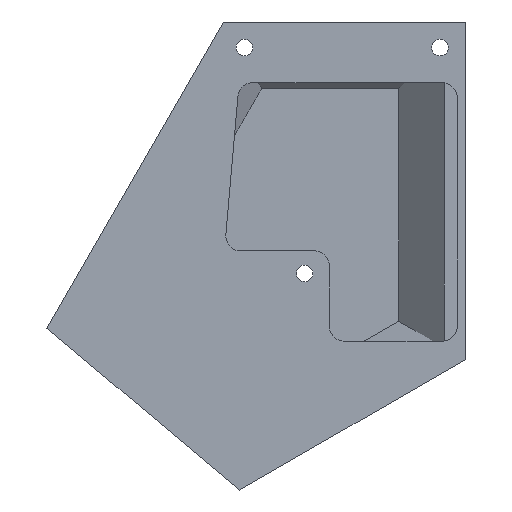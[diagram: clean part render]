
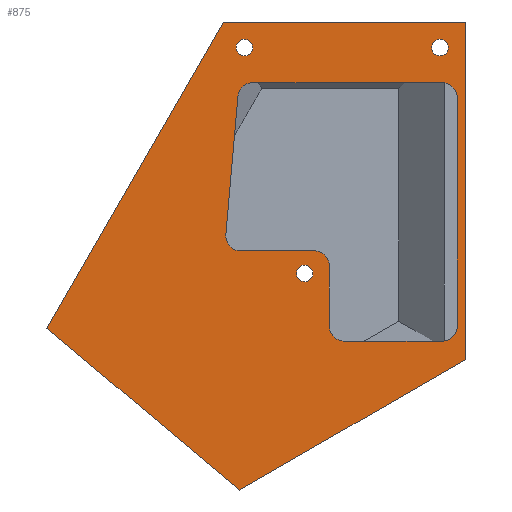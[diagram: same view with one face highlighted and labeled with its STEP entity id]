
A CAD part, front view. The second image highlights one B-rep face of the part: STEP entity #875.
In plain terms, the highlighted planar face has unit normal (0, -1, 0).
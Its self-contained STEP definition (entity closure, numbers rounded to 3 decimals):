
#2=DIRECTION('',(1.,0.,0.));
#3=VECTOR('',#2,32.165);
#4=CARTESIAN_POINT('',(-26.799,42.,33.414));
#5=LINE('',#4,#3);
#6=DIRECTION('',(0.,0.,-1.));
#7=VECTOR('',#6,44.87);
#8=CARTESIAN_POINT('',(5.366,42.,33.414));
#9=LINE('',#8,#7);
#10=DIRECTION('',(-0.866,0.,-0.5));
#11=VECTOR('',#10,34.641);
#12=CARTESIAN_POINT('',(5.366,42.,-11.455));
#13=LINE('',#12,#11);
#14=DIRECTION('',(-0.766,0.,0.643));
#15=VECTOR('',#14,33.478);
#16=CARTESIAN_POINT('',(-24.634,42.,-28.776));
#17=LINE('',#16,#15);
#18=DIRECTION('',(0.5,0.,0.866));
#19=VECTOR('',#18,46.962);
#20=CARTESIAN_POINT('',(-50.28,42.,-7.256));
#21=LINE('',#20,#19);
#22=CARTESIAN_POINT('',(2.,42.,30.));
#23=DIRECTION('',(0.,-1.,0.));
#24=DIRECTION('',(-1.,0.,0.));
#25=AXIS2_PLACEMENT_3D('',#22,#23,#24);
#27=CARTESIAN_POINT('',(2.,42.,30.));
#28=DIRECTION('',(0.,-1.,0.));
#29=DIRECTION('',(1.,0.,0.));
#30=AXIS2_PLACEMENT_3D('',#27,#28,#29);
#32=CARTESIAN_POINT('',(-24.,42.,30.));
#33=DIRECTION('',(0.,-1.,0.));
#34=DIRECTION('',(-1.,0.,0.));
#35=AXIS2_PLACEMENT_3D('',#32,#33,#34);
#37=CARTESIAN_POINT('',(-24.,42.,30.));
#38=DIRECTION('',(0.,-1.,0.));
#39=DIRECTION('',(1.,0.,0.));
#40=AXIS2_PLACEMENT_3D('',#37,#38,#39);
#42=CARTESIAN_POINT('',(-16.,42.,0.));
#43=DIRECTION('',(0.,-1.,0.));
#44=DIRECTION('',(-1.,0.,0.));
#45=AXIS2_PLACEMENT_3D('',#42,#43,#44);
#47=CARTESIAN_POINT('',(-16.,42.,0.));
#48=DIRECTION('',(0.,-1.,0.));
#49=DIRECTION('',(1.,0.,0.));
#50=AXIS2_PLACEMENT_3D('',#47,#48,#49);
#52=CARTESIAN_POINT('',(-14.7,42.,1.));
#53=DIRECTION('',(0.,-1.,0.));
#54=DIRECTION('',(1.,0.,0.));
#55=AXIS2_PLACEMENT_3D('',#52,#53,#54);
#57=DIRECTION('',(0.,0.,-1.));
#58=VECTOR('',#57,8.);
#59=CARTESIAN_POINT('',(-12.7,42.,1.));
#60=LINE('',#59,#58);
#61=DIRECTION('',(1.,0.,0.));
#62=VECTOR('',#61,13.);
#63=CARTESIAN_POINT('',(-10.7,42.,-9.));
#64=LINE('',#63,#62);
#65=DIRECTION('',(-1.,0.,0.));
#66=VECTOR('',#65,25.167);
#67=CARTESIAN_POINT('',(2.3,42.,25.357));
#68=LINE('',#67,#66);
#69=DIRECTION('',(-0.087,0.,-0.996));
#70=VECTOR('',#69,18.427);
#71=CARTESIAN_POINT('',(-24.86,42.,23.531));
#72=LINE('',#71,#70);
#73=DIRECTION('',(1.,0.,0.));
#74=VECTOR('',#73,9.773);
#75=CARTESIAN_POINT('',(-24.473,42.,3.));
#76=LINE('',#75,#74);
#429=CARTESIAN_POINT('',(-24.473,42.,5.));
#430=DIRECTION('',(0.,1.,0.));
#431=DIRECTION('',(0.,0.,-1.));
#432=AXIS2_PLACEMENT_3D('',#429,#430,#431);
#447=CARTESIAN_POINT('',(-22.867,42.,23.357));
#448=DIRECTION('',(0.,1.,0.));
#449=DIRECTION('',(-0.996,0.,0.087));
#450=AXIS2_PLACEMENT_3D('',#447,#448,#449);
#465=CARTESIAN_POINT('',(2.3,42.,23.357));
#466=DIRECTION('',(0.,1.,0.));
#467=DIRECTION('',(0.,0.,1.));
#468=AXIS2_PLACEMENT_3D('',#465,#466,#467);
#488=DIRECTION('',(0.,0.,-1.));
#489=VECTOR('',#488,30.357);
#490=CARTESIAN_POINT('',(4.3,42.,23.357));
#491=LINE('',#490,#489);
#500=CARTESIAN_POINT('',(2.3,42.,-7.));
#501=DIRECTION('',(0.,1.,0.));
#502=DIRECTION('',(1.,0.,0.));
#503=AXIS2_PLACEMENT_3D('',#500,#501,#502);
#513=CARTESIAN_POINT('',(-10.7,42.,-7.));
#514=DIRECTION('',(0.,1.,0.));
#515=DIRECTION('',(0.,0.,-1.));
#516=AXIS2_PLACEMENT_3D('',#513,#514,#515);
#648=CARTESIAN_POINT('',(5.366,42.,-11.455));
#649=CARTESIAN_POINT('',(-24.634,42.,-28.776));
#650=VERTEX_POINT('',#648);
#651=VERTEX_POINT('',#649);
#652=CARTESIAN_POINT('',(-50.28,42.,-7.256));
#653=CARTESIAN_POINT('',(-26.799,42.,33.414));
#654=VERTEX_POINT('',#652);
#655=VERTEX_POINT('',#653);
#676=CARTESIAN_POINT('',(5.366,42.,33.414));
#677=VERTEX_POINT('',#676);
#694=CARTESIAN_POINT('',(0.9,42.,30.));
#695=CARTESIAN_POINT('',(3.1,42.,30.));
#696=VERTEX_POINT('',#694);
#697=VERTEX_POINT('',#695);
#698=CARTESIAN_POINT('',(-25.1,42.,30.));
#699=CARTESIAN_POINT('',(-22.9,42.,30.));
#700=VERTEX_POINT('',#698);
#701=VERTEX_POINT('',#699);
#702=CARTESIAN_POINT('',(-17.1,42.,0.));
#703=CARTESIAN_POINT('',(-14.9,42.,0.));
#704=VERTEX_POINT('',#702);
#705=VERTEX_POINT('',#703);
#762=CARTESIAN_POINT('',(-10.7,42.,-9.));
#764=VERTEX_POINT('',#762);
#766=CARTESIAN_POINT('',(-12.7,42.,-7.));
#768=VERTEX_POINT('',#766);
#770=CARTESIAN_POINT('',(-24.473,42.,3.));
#772=VERTEX_POINT('',#770);
#774=CARTESIAN_POINT('',(-26.466,42.,5.174));
#776=VERTEX_POINT('',#774);
#778=CARTESIAN_POINT('',(-24.86,42.,23.531));
#780=VERTEX_POINT('',#778);
#782=CARTESIAN_POINT('',(-22.867,42.,25.357));
#784=VERTEX_POINT('',#782);
#792=CARTESIAN_POINT('',(2.3,42.,25.357));
#793=VERTEX_POINT('',#792);
#794=CARTESIAN_POINT('',(4.3,42.,23.357));
#795=VERTEX_POINT('',#794);
#796=CARTESIAN_POINT('',(2.3,42.,-9.));
#798=VERTEX_POINT('',#796);
#804=CARTESIAN_POINT('',(4.3,42.,-7.));
#805=VERTEX_POINT('',#804);
#806=CARTESIAN_POINT('',(-12.7,42.,1.));
#807=CARTESIAN_POINT('',(-14.7,42.,3.));
#808=VERTEX_POINT('',#806);
#809=VERTEX_POINT('',#807);
#814=CARTESIAN_POINT('',(0.,42.,0.));
#815=DIRECTION('',(0.,1.,0.));
#816=DIRECTION('',(1.,0.,0.));
#817=AXIS2_PLACEMENT_3D('',#814,#815,#816);
#818=PLANE('',#817);
#820=ORIENTED_EDGE('',*,*,#819,.T.);
#822=ORIENTED_EDGE('',*,*,#821,.T.);
#824=ORIENTED_EDGE('',*,*,#823,.T.);
#826=ORIENTED_EDGE('',*,*,#825,.T.);
#828=ORIENTED_EDGE('',*,*,#827,.T.);
#829=EDGE_LOOP('',(#820,#822,#824,#826,#828));
#830=FACE_OUTER_BOUND('',#829,.F.);
#832=ORIENTED_EDGE('',*,*,#831,.T.);
#834=ORIENTED_EDGE('',*,*,#833,.T.);
#835=EDGE_LOOP('',(#832,#834));
#836=FACE_BOUND('',#835,.F.);
#838=ORIENTED_EDGE('',*,*,#837,.T.);
#840=ORIENTED_EDGE('',*,*,#839,.T.);
#841=EDGE_LOOP('',(#838,#840));
#842=FACE_BOUND('',#841,.F.);
#844=ORIENTED_EDGE('',*,*,#843,.T.);
#846=ORIENTED_EDGE('',*,*,#845,.T.);
#847=EDGE_LOOP('',(#844,#846));
#848=FACE_BOUND('',#847,.F.);
#850=ORIENTED_EDGE('',*,*,#849,.F.);
#852=ORIENTED_EDGE('',*,*,#851,.T.);
#854=ORIENTED_EDGE('',*,*,#853,.F.);
#856=ORIENTED_EDGE('',*,*,#855,.T.);
#858=ORIENTED_EDGE('',*,*,#857,.F.);
#860=ORIENTED_EDGE('',*,*,#859,.F.);
#862=ORIENTED_EDGE('',*,*,#861,.F.);
#864=ORIENTED_EDGE('',*,*,#863,.T.);
#866=ORIENTED_EDGE('',*,*,#865,.F.);
#868=ORIENTED_EDGE('',*,*,#867,.T.);
#870=ORIENTED_EDGE('',*,*,#869,.F.);
#872=ORIENTED_EDGE('',*,*,#871,.T.);
#873=EDGE_LOOP('',(#850,#852,#854,#856,#858,#860,#862,#864,#866,#868,#870,
#872));
#874=FACE_BOUND('',#873,.F.);
#875=ADVANCED_FACE('',(#830,#836,#842,#848,#874),#818,.F.);
#26=CIRCLE('',#25,1.1);
#31=CIRCLE('',#30,1.1);
#36=CIRCLE('',#35,1.1);
#41=CIRCLE('',#40,1.1);
#46=CIRCLE('',#45,1.1);
#51=CIRCLE('',#50,1.1);
#56=CIRCLE('',#55,2.);
#433=CIRCLE('',#432,2.);
#451=CIRCLE('',#450,2.);
#469=CIRCLE('',#468,2.);
#504=CIRCLE('',#503,2.);
#517=CIRCLE('',#516,2.);
#819=EDGE_CURVE('',#655,#677,#5,.T.);
#821=EDGE_CURVE('',#677,#650,#9,.T.);
#823=EDGE_CURVE('',#650,#651,#13,.T.);
#825=EDGE_CURVE('',#651,#654,#17,.T.);
#827=EDGE_CURVE('',#654,#655,#21,.T.);
#831=EDGE_CURVE('',#696,#697,#26,.T.);
#833=EDGE_CURVE('',#697,#696,#31,.T.);
#837=EDGE_CURVE('',#700,#701,#36,.T.);
#839=EDGE_CURVE('',#701,#700,#41,.T.);
#843=EDGE_CURVE('',#704,#705,#46,.T.);
#845=EDGE_CURVE('',#705,#704,#51,.T.);
#849=EDGE_CURVE('',#808,#809,#56,.T.);
#851=EDGE_CURVE('',#808,#768,#60,.T.);
#853=EDGE_CURVE('',#764,#768,#517,.T.);
#855=EDGE_CURVE('',#764,#798,#64,.T.);
#857=EDGE_CURVE('',#805,#798,#504,.T.);
#859=EDGE_CURVE('',#795,#805,#491,.T.);
#861=EDGE_CURVE('',#793,#795,#469,.T.);
#863=EDGE_CURVE('',#793,#784,#68,.T.);
#865=EDGE_CURVE('',#780,#784,#451,.T.);
#867=EDGE_CURVE('',#780,#776,#72,.T.);
#869=EDGE_CURVE('',#772,#776,#433,.T.);
#871=EDGE_CURVE('',#772,#809,#76,.T.);
